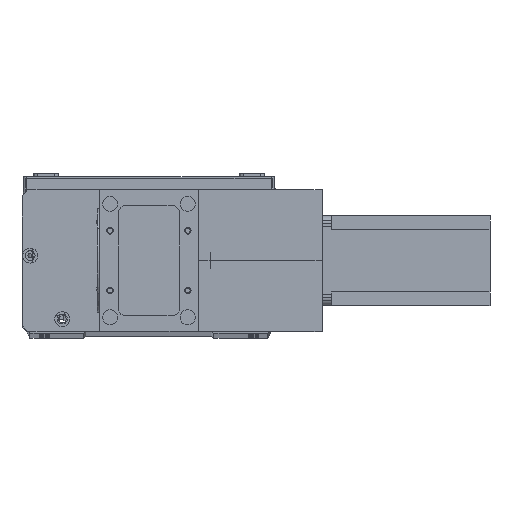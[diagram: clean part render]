
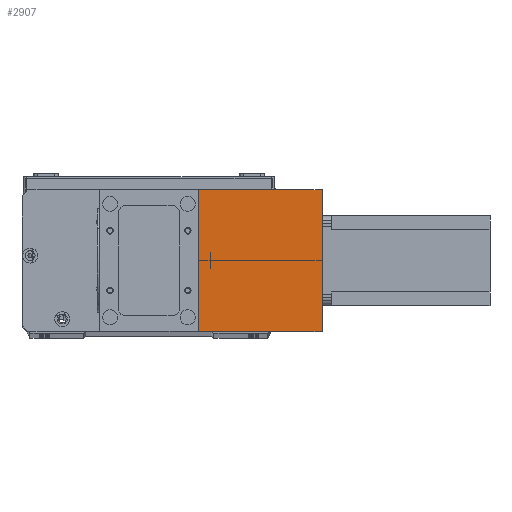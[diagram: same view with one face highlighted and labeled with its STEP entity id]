
A CAD part, top view. The second image highlights one B-rep face of the part: STEP entity #2907.
In plain terms, the highlighted planar face has unit normal (0, 0, 1) as drawn and (1, 0, 0) by its records, which use the part's own axes.
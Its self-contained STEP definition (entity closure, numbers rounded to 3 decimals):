
#1687 = VERTEX_POINT ( 'NONE', #27137 ) ;
#2907 = ADVANCED_FACE ( 'NONE', ( #9552 ), #19267, .F. ) ;
#3097 = VECTOR ( 'NONE', #10224, 1000. ) ;
#3527 = LINE ( 'NONE', #25054, #27033 ) ;
#3953 = ORIENTED_EDGE ( 'NONE', *, *, #15513, .F. ) ;
#4197 = DIRECTION ( 'NONE',  ( 0., 0., -1. ) ) ;
#4738 = AXIS2_PLACEMENT_3D ( 'NONE', #17512, #25313, #15217 ) ;
#9552 = FACE_OUTER_BOUND ( 'NONE', #13241, .T. ) ;
#10077 = LINE ( 'NONE', #17210, #3097 ) ;
#10224 = DIRECTION ( 'NONE',  ( 0., 1., 0. ) ) ;
#10618 = CARTESIAN_POINT ( 'NONE',  ( 82., 95., 83. ) ) ;
#11480 = VECTOR ( 'NONE', #18933, 1000. ) ;
#13238 = ORIENTED_EDGE ( 'NONE', *, *, #14039, .T. ) ;
#13241 = EDGE_LOOP ( 'NONE', ( #24343, #3953, #19027, #13238 ) ) ;
#14039 = EDGE_CURVE ( 'NONE', #21468, #1687, #17690, .T. ) ;
#15217 = DIRECTION ( 'NONE',  ( 0., 0., 1. ) ) ;
#15384 = EDGE_CURVE ( 'NONE', #1687, #17101, #3527, .T. ) ;
#15513 = EDGE_CURVE ( 'NONE', #27321, #17101, #23578, .T. ) ;
#16082 = EDGE_CURVE ( 'NONE', #21468, #27321, #10077, .T. ) ;
#17101 = VERTEX_POINT ( 'NONE', #20408 ) ;
#17210 = CARTESIAN_POINT ( 'NONE',  ( 82., 0., 83. ) ) ;
#17512 = CARTESIAN_POINT ( 'NONE',  ( 82., 0., 83. ) ) ;
#17690 = LINE ( 'NONE', #26981, #29551 ) ;
#18933 = DIRECTION ( 'NONE',  ( 0., 0., -1. ) ) ;
#19027 = ORIENTED_EDGE ( 'NONE', *, *, #16082, .F. ) ;
#19267 = PLANE ( 'NONE',  #4738 ) ;
#20408 = CARTESIAN_POINT ( 'NONE',  ( 82., 95., 0. ) ) ;
#20705 = CARTESIAN_POINT ( 'NONE',  ( 82., 0., 83. ) ) ;
#21206 = CARTESIAN_POINT ( 'NONE',  ( 82., 95., 83. ) ) ;
#21468 = VERTEX_POINT ( 'NONE', #20705 ) ;
#23578 = LINE ( 'NONE', #21206, #11480 ) ;
#24343 = ORIENTED_EDGE ( 'NONE', *, *, #15384, .T. ) ;
#25054 = CARTESIAN_POINT ( 'NONE',  ( 82., 0., 0. ) ) ;
#25313 = DIRECTION ( 'NONE',  ( -1., 0., 0. ) ) ;
#26981 = CARTESIAN_POINT ( 'NONE',  ( 82., 0., 83. ) ) ;
#27033 = VECTOR ( 'NONE', #27298, 1000. ) ;
#27137 = CARTESIAN_POINT ( 'NONE',  ( 82., 0., 0. ) ) ;
#27298 = DIRECTION ( 'NONE',  ( 0., 1., 0. ) ) ;
#27321 = VERTEX_POINT ( 'NONE', #10618 ) ;
#29551 = VECTOR ( 'NONE', #4197, 1000. ) ;
